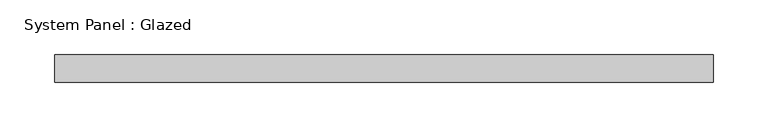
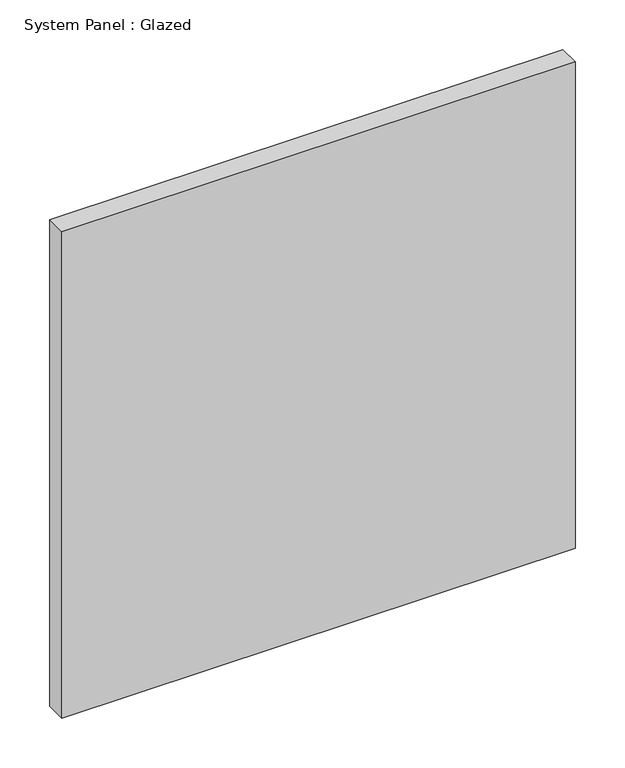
"""IFC4 building model written with IfcOpenShell, lengths in millimetres: plate geometry, System Panel : Glazed."""

from ifc_helpers import new_model, si_unit, frame, origin, place, context, project, spatial, polyline, outline, extrude, source, transform, mapped, element, save


def system_panel_glazed_2d759943(model_context):
    return source(origin(), model_context, "Body", "SweptSolid", [
        extrude(outline(polyline([(0.0, -299.2730078), (0.0, 299.2730078), (599.9999973, 299.3301554), (599.9999973, -299.3301554), (0.0, -299.2730078)])), frame((0.0, 24.5, 0.0), z_axis=(0.0, 1.0, 0.0), x_axis=(0.0, 0.0, 1.0)), (0.0, 0.0, 1.0), 25.0),
    ])


if __name__ == "__main__":
    model = new_model("IFC4")
    model_context = context("Model", 3, world=origin())
    ifc_project = project(units=[si_unit("LENGTHUNIT", "METRE", prefix="MILLI")], contexts=[model_context])
    site = spatial("IfcSite", under=ifc_project)
    building = spatial("IfcBuilding", under=site)
    placement = place(None, origin())
    system_panel_glazed_shape = system_panel_glazed_2d759943(model_context)
    element("IfcPlate", 1, ObjectType="System Panel : Glazed", at=placement, inside=building, context=model_context, shape_type="MappedRepresentation", body=[
        mapped(system_panel_glazed_shape, transform((0.0, 0.0, 0.0), x_axis=(1.0, 0.0, 0.0), y_axis=(0.0, 1.0, 0.0), z_axis=(0.0, 0.0, 1.0))),
    ])
    save(model, "model.ifc")
